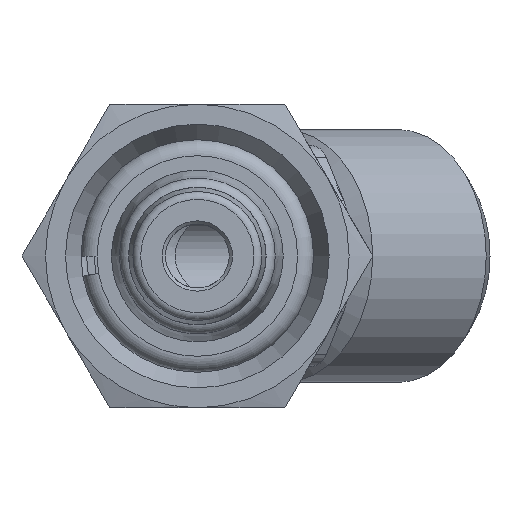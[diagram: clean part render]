
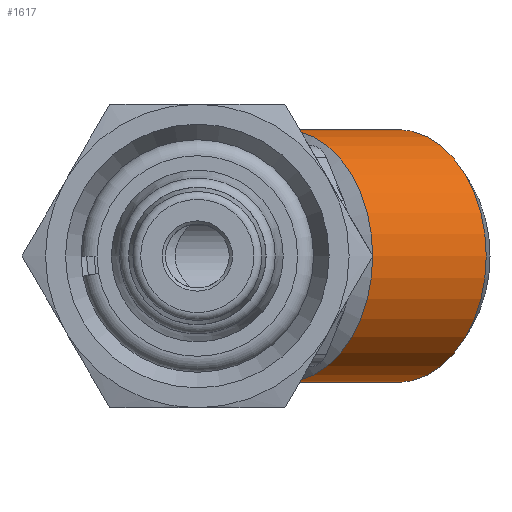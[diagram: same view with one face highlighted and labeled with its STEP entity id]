
A CAD part, front view. The second image highlights one B-rep face of the part: STEP entity #1617.
In plain terms, the highlighted cylindrical face has radius 7.925 mm (diameter 15.85 mm), a full revolution.
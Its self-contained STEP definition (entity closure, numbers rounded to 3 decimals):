
#190=FACE_OUTER_BOUND('',#296,.T.);
#296=EDGE_LOOP('',(#1183,#1184,#1185,#1186));
#427=LINE('',#2732,#503);
#503=VECTOR('',#2183,7.925);
#610=CIRCLE('',#1855,7.925);
#618=CIRCLE('',#1864,7.925);
#724=VERTEX_POINT('',#2708);
#732=VERTEX_POINT('',#2726);
#890=EDGE_CURVE('',#724,#724,#610,.T.);
#899=EDGE_CURVE('',#732,#732,#618,.T.);
#902=EDGE_CURVE('',#724,#732,#427,.T.);
#1183=ORIENTED_EDGE('',*,*,#890,.F.);
#1184=ORIENTED_EDGE('',*,*,#902,.T.);
#1185=ORIENTED_EDGE('',*,*,#899,.F.);
#1186=ORIENTED_EDGE('',*,*,#902,.F.);
#1579=CYLINDRICAL_SURFACE('',#1866,7.925);
#1617=ADVANCED_FACE('',(#190),#1579,.T.);
#1855=AXIS2_PLACEMENT_3D('',#2709,#2157,#2158);
#1864=AXIS2_PLACEMENT_3D('',#2727,#2176,#2177);
#1866=AXIS2_PLACEMENT_3D('',#2731,#2181,#2182);
#2157=DIRECTION('center_axis',(-0.707,-0.707,0.));
#2158=DIRECTION('ref_axis',(-0.707,0.707,0.));
#2176=DIRECTION('center_axis',(0.707,0.707,0.));
#2177=DIRECTION('ref_axis',(0.707,-0.707,0.));
#2181=DIRECTION('center_axis',(-0.707,-0.707,0.));
#2182=DIRECTION('ref_axis',(0.707,-0.707,0.));
#2183=DIRECTION('',(0.707,0.707,0.));
#2708=CARTESIAN_POINT('',(-0.236,17.222,0.));
#2709=CARTESIAN_POINT('Origin',(5.368,11.618,0.));
#2726=CARTESIAN_POINT('',(6.869,24.327,0.));
#2727=CARTESIAN_POINT('Origin',(12.473,18.723,0.));
#2731=CARTESIAN_POINT('Origin',(14.496,20.746,0.));
#2732=CARTESIAN_POINT('',(8.892,26.35,0.));
